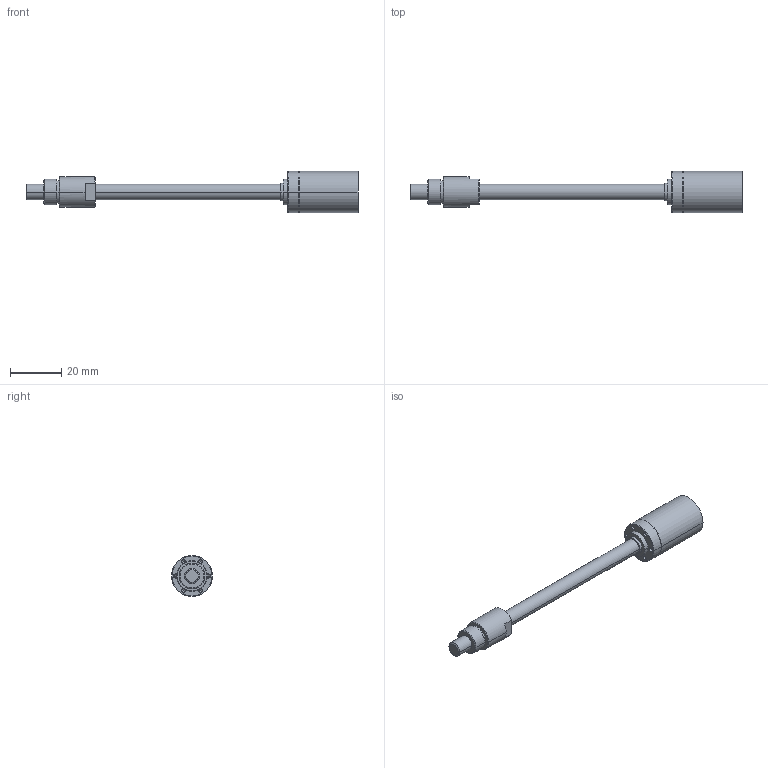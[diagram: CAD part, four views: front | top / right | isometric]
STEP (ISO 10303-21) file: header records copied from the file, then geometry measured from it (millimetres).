
FILE_DESCRIPTION((''),'2;1');
FILE_NAME('424233_GP16S_M-2ST','2016-10-05T',('mmagpetk'),(''),'CREO PARAMETRIC BY PTC INC, 2016050','CREO PARAMETRIC BY PTC INC, 2016050','');
FILE_SCHEMA(('CONFIG_CONTROL_DESIGN'));
Length unit declared in the file: millimetre
Products named in the file (1): 424233_GP16S_M-2ST
Bounding box: 129.4 x 16 x 16 mm (x, y, z)
Volume: 9520.3 mm3; surface area: 4836.9 mm2
Topology: 1 solids, 1 shells, 95 faces, 206 edges, 122 vertices
Faces by surface type: cylinder 44, cone 28, plane 21, torus 2
Entity records: 4360 total; most frequent: CARTESIAN_POINT 523, DIRECTION 484, ORIENTED_EDGE 388, PRESENTATION_STYLE_ASSIGNMENT 282, AXIS2_PLACEMENT_3D 203, STYLED_ITEM 195, CURVE_STYLE 194, EDGE_CURVE 194
